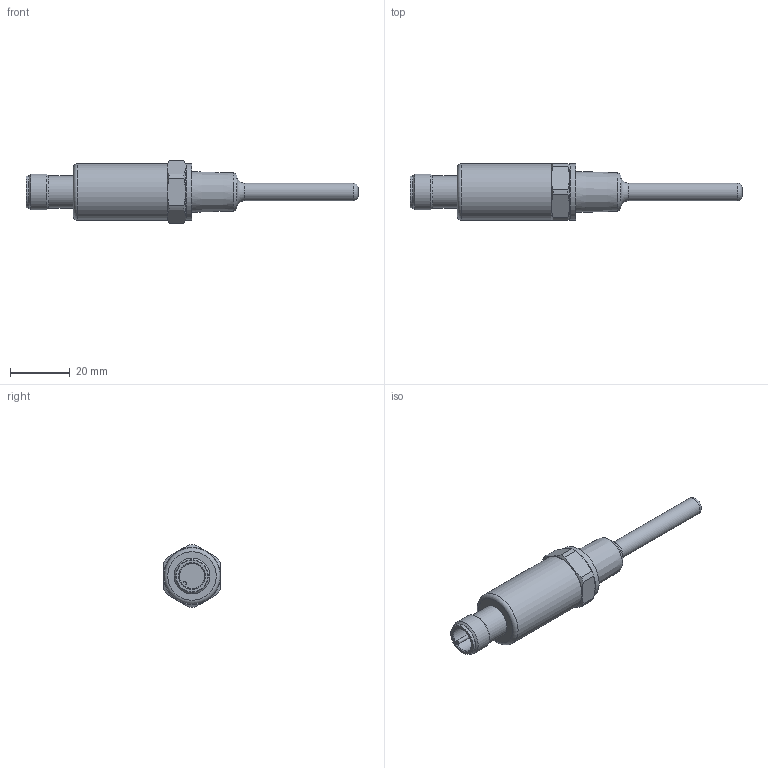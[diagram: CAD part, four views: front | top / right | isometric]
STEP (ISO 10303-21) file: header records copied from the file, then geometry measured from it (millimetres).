
FILE_DESCRIPTION( ( 'STEP AP203' ), ' ' );
FILE_NAME( 'p:/temp/worker_5511/1988_4996/app_49_02017021513422282625548192d056f_000000_00_00_000000/format_3/TA3313.stp', '2017-02-15T12:42:24', ( '' ), ( '' ), ' ', 'PARTsolutions', ' ' );
FILE_SCHEMA( ( 'CONFIG_CONTROL_DESIGN' ) );
Length unit declared in the file: millimetre
Products named in the file (1): _TA3313
Bounding box: 110.8 x 19 x 20.99 mm (x, y, z)
Volume: 15399.3 mm3; surface area: 5057.9 mm2
Topology: 1 solids, 1 shells, 52 faces, 117 edges, 73 vertices
Faces by surface type: plane 17, cone 17, cylinder 14, torus 4
Full cylindrical faces by diameter (mm): 6 x1, 8.4 x1, 10.6 x1, 10.8 x1, 12 x1, 18.75 x1, 18.9 x1
Entity records: 1498 total; most frequent: CARTESIAN_POINT 385, DIRECTION 224, ORIENTED_EDGE 198, AXIS2_PLACEMENT_3D 102, EDGE_CURVE 99, EDGE_LOOP 74, VERTEX_POINT 71, FACE_OUTER_BOUND 63
